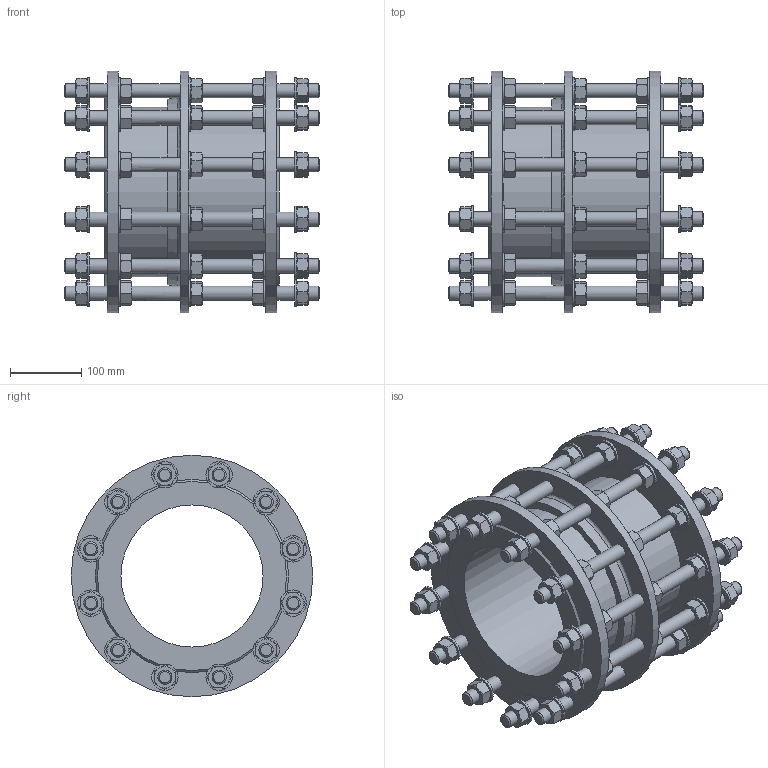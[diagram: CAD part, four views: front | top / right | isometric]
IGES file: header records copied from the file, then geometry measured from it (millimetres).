
Start section: SolidWorks IGES file using analytic representation for surfaces
Global section: file name: \\avksan2\techshare\PBM outline export from Enovia\O_265_910_DN200_1XXXXX00_L=245_REV01.igs; native system: SolidWorks 2022; preprocessor: SolidWorks 2022; author: pbm; date: 241011.104904; units: millimetre
Bounding box: 360 x 340 x 340 mm (x, y, z)
Surface area: 971171.7 mm2 (no closed solid volume)
Topology: 0 solids, 0 shells, 1464 faces, 6175 edges, 6009 vertices
Faces by surface type: revolution 888, bspline 576
